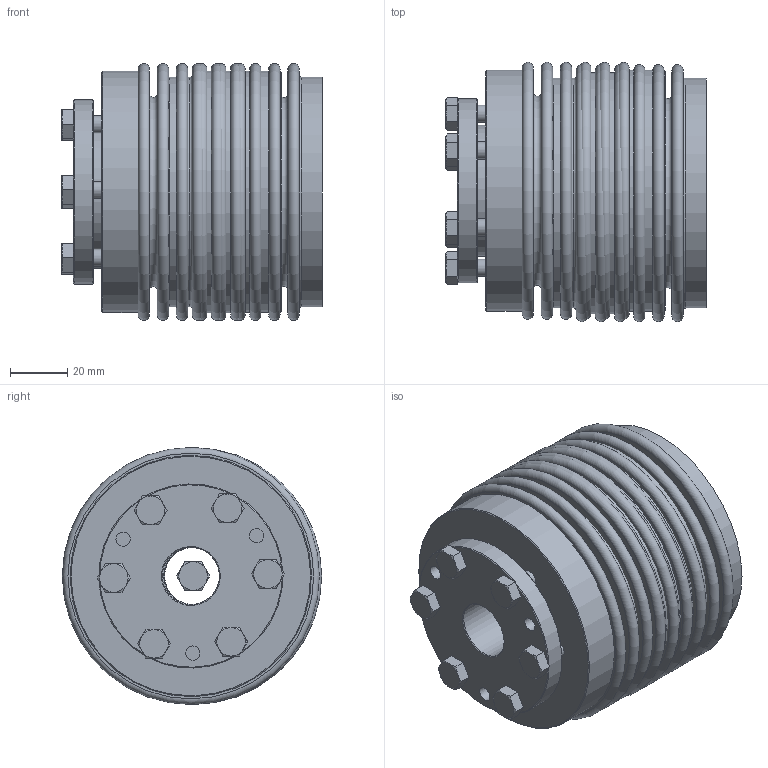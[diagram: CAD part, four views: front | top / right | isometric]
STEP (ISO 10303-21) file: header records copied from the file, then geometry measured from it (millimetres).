
FILE_DESCRIPTION( ( 'Unknown' ), '1' );
FILE_NAME( 'C:/Dokumente und Einstellungen/Sven/Desktop/homepage/cad - homepage/KB5/KB5-200-91.stp', 'Unknown', ( 'Unknown' ), ( 'Unknown' ), 'XStep 1.0', 'Unknown', ' ' );
FILE_SCHEMA( ( 'automotive_design' ) );
Length unit declared in the file: millimetre
Products named in the file (5): Assem1; BL200_Standard; Hex Screw GradeC_ISO_ISO 4018 - M6 x 25-NN_0; BA200_Standard_0; KB200_Standard_0
Bounding box: 91.09 x 90.81 x 89.99 mm (x, y, z)
Volume: 386439.7 mm3; surface area: 263866.7 mm2
Topology: 21 solids, 21 shells, 448 faces, 914 edges, 575 vertices
Faces by surface type: plane 187, cone 127, cylinder 81, torus 53
Full cylindrical faces by diameter (mm): 5 x9, 6 x31, 6.5 x18, 20 x3, 46 x3, 63 x3, 64.5 x3, 79.2 x4, 80.4 x4, 84.5 x3
Entity records: 2878 total; most frequent: DIRECTION 506, CARTESIAN_POINT 437, ORIENTED_EDGE 284, AXIS2_PLACEMENT_3D 247, EDGE_LOOP 238, FACE_OUTER_BOUND 162, EDGE_CURVE 142, VERTEX_POINT 130
